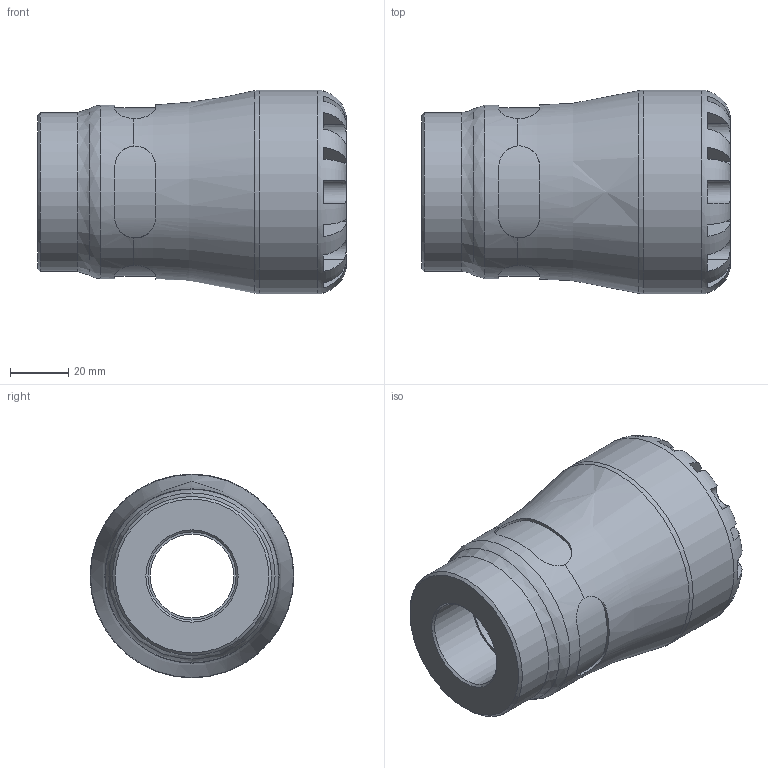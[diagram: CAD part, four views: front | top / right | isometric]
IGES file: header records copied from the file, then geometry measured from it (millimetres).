
Global section: file name: 107300040010_197300040010.ipt; native system: Autodesk Inventor 2015; preprocessor: unknown; author: KIM; date: 20170122.113612; units: millimetre
Bounding box: 106 x 70 x 70 mm (x, y, z)
Volume: 208159.6 mm3; surface area: 39395.1 mm2
Topology: 1 solids, 1 shells, 104 faces, 279 edges, 180 vertices
Faces by surface type: plane 61, revolution 27, cylinder 15, cone 1
Full cylindrical faces by diameter (mm): 54.6 x1, 59.5 x1, 70 x1
